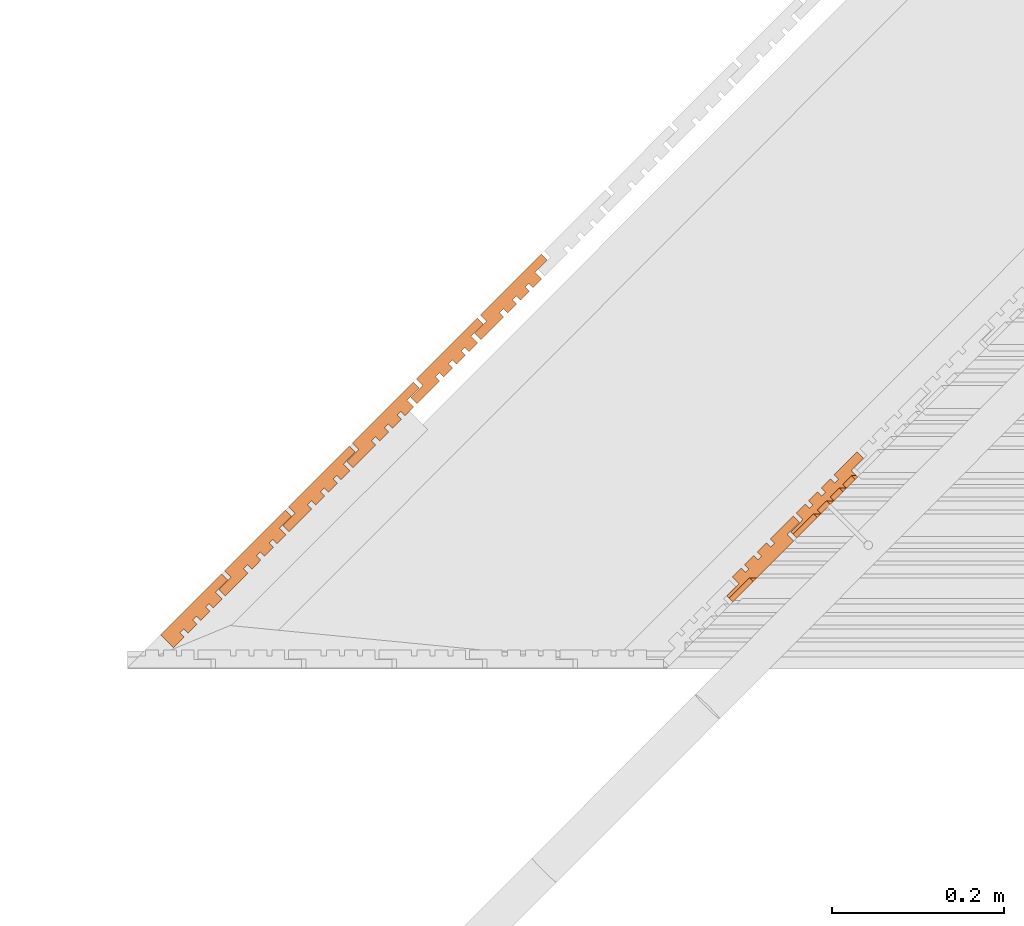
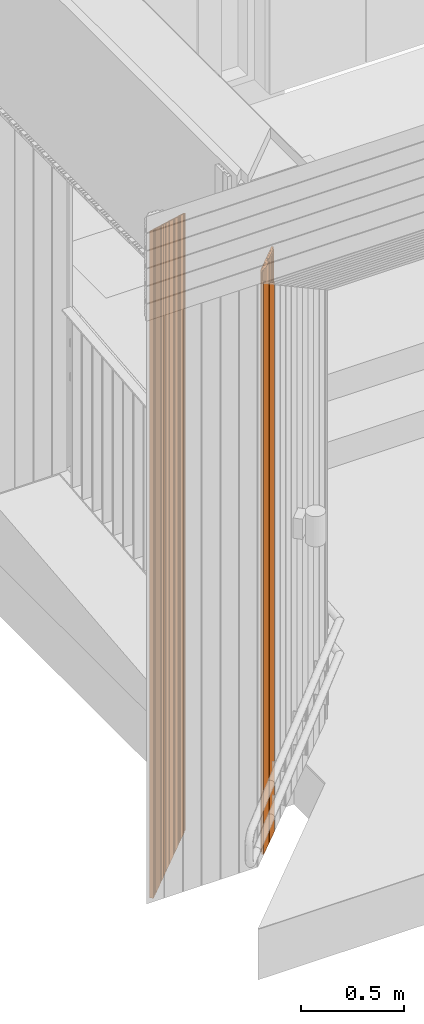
# One storey, part 382 of 418: 8 proxies.
"""IFC2X3 building model written with IfcOpenShell, lengths in millimetres."""

from ifc_helpers import new_model, entity, si_unit, converted_unit, derived_unit, money_unit, direction, frame, origin_with_axes, place, context, subcontext, project, spatial, polyline, outline, extrude, boolean, faceted_brep, material, type_object, element, save


model = new_model("IFC2X3")

# Units and contexts
model_context = context("Model", 3, precision=0.01, world=origin_with_axes(), true_north=direction((0.0, 1.0)))
body_context = subcontext(model_context, "Body", "Model", "MODEL_VIEW")
ifc_project = project(units=[si_unit("LENGTHUNIT", "METRE", prefix="MILLI"), si_unit("AREAUNIT", "SQUARE_METRE"), si_unit("VOLUMEUNIT", "CUBIC_METRE"), converted_unit("PLANEANGLEUNIT", "DEGREE", entity("IfcPlaneAngleMeasure", 0.0174532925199), si_unit("PLANEANGLEUNIT", "RADIAN"), dimensions=[0, 0, 0, 0, 0, 0, 0]), si_unit("SOLIDANGLEUNIT", "STERADIAN"), money_unit("EUR"), converted_unit("TIMEUNIT", "Year", entity("IfcTimeMeasure", 31556926.0), si_unit("TIMEUNIT", "SECOND"), dimensions=[0, 0, 1, 0, 0, 0, 0]), si_unit("MASSUNIT", "GRAM", prefix="KILO"), si_unit("THERMODYNAMICTEMPERATUREUNIT", "DEGREE_CELSIUS"), si_unit("LUMINOUSINTENSITYUNIT", "LUMEN"), si_unit("ENERGYUNIT", "JOULE", prefix="MEGA"), derived_unit("THERMALCONDUCTANCEUNIT", [(si_unit("POWERUNIT", "WATT"), 1), (si_unit("LENGTHUNIT", "METRE"), -1), (si_unit("THERMODYNAMICTEMPERATUREUNIT", "KELVIN"), -1)]), derived_unit("SPECIFICHEATCAPACITYUNIT", [(si_unit("ENERGYUNIT", "JOULE"), 1), (si_unit("MASSUNIT", "GRAM", prefix="KILO"), -1), (si_unit("THERMODYNAMICTEMPERATUREUNIT", "KELVIN"), -1)]), derived_unit("MASSDENSITYUNIT", [(si_unit("MASSUNIT", "GRAM", prefix="KILO"), 1), (si_unit("VOLUMEUNIT", "CUBIC_METRE"), -1)])], contexts=[model_context])

# Site, building, storey
site_placement = place(None, origin_with_axes())
site = spatial("IfcSite", under=ifc_project, at=site_placement, Name="Paldiski mnt 245/1, Tallinn, Harjumaa", CompositionType="COMPLEX")
building_placement = place(site_placement, origin_with_axes())
building = spatial("IfcBuilding", under=site, at=building_placement, Name="RKAS Hoone üldnimetus (kasutust iseloomustav) -> IFC Project Manager -> SOLIBRI", CompositionType="ELEMENT")
storey_placement = place(building_placement, origin_with_axes())
storey = spatial("IfcBuildingStorey", under=building, at=storey_placement, Name="Esimene korrus", CompositionType="ELEMENT", Elevation=0.0)

# Proxies
ifc_material = material(Name="ET-01_Puit - Konstruktsioon")
building_element_proxy_type_1 = type_object("IfcBuildingElementProxyType", Name="ET-01_Puit - Konstruktsioon 4084", PredefinedType="NOTDEFINED")
proxy_1_placement = place(storey_placement, frame((-45239.8345667, -18317.3537205, 4083.99999963), z_axis=(0.0, 0.0, 1.0), x_axis=(1.0, 0.0, 0.0)))
element("IfcBuildingElementProxy", 1, at=proxy_1_placement, inside=storey, type_object=building_element_proxy_type_1, material=ifc_material, Name="Varikatus", context=body_context, shape_type="CSG", body=[
    boolean("DIFFERENCE", extrude(outline(polyline([(0.0, 0.0), (7.42844055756, -7.42079883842), (33.9497391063, 19.1278074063), (28.9974455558, 24.0750082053), (33.4940944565, 28.5762877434), (38.4463881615, 23.6290885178), (49.0045018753, 34.1980741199), (44.0522081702, 39.1452733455), (48.3823797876, 43.4799031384), (53.3346734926, 38.5327039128), (63.8146046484, 49.0234249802), (58.8623110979, 53.9706257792), (62.8488134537, 57.9612321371), (67.8011071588, 53.0140329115), (78.1027224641, 63.3262563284), (70.3205472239, 71.1004278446), (84.455402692, 85.2498392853), (77.3806969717, 92.3172670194), (6.70641506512, 21.5702118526), (14.1348570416, 14.1494112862), (0.0, 0.0)])), frame((0.0, 0.0, -4083.99999963), z_axis=(0.0, 0.0, 1.0), x_axis=(1.0, 0.0, 0.0)), (0.0, 0.0, 1.0), 4083.99999963), faceted_brep([(70.3205472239, 71.1004278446, -424.394256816), (84.455402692, 85.2498392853, -434.564598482), (84.455402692, 85.2498392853, 0.0), (70.3205472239, 71.1004278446, 0.0), (77.3806969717, 92.3172670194, -439.644538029), (78.1027224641, 63.3262563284, -418.806322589), (67.8011071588, 53.0140329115, -411.394082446), (62.8488134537, 57.9612321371, -414.950039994), (58.8623110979, 53.9706257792, -412.081664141), (63.8146046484, 49.0234249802, -408.525705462), (53.3346734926, 38.5327039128, -400.985164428), (48.3823797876, 43.4799031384, -404.541121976), (44.0522081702, 39.1452733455, -401.425468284), (49.0045018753, 34.1980741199, -397.869510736), (38.4463881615, 23.6290885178, -390.272714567), (33.4940944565, 28.5762877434, -393.828672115), (28.9974455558, 24.0750082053, -390.593233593), (33.9497391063, 19.1278074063, -387.037274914), (7.42844055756, -7.42079883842, -367.954615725), (0.0, 0.0, -373.288552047), (14.1348570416, 14.1494112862, -383.458893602), (6.70641506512, 21.5702118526, -388.792831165), (77.3806969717, 92.3172670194, 0.0), (14.1348570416, 14.1494112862, 0.0), (0.0, 0.0, 0.0), (7.42844055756, -7.42079883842, 0.0), (33.9497391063, 19.1278074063, 0.0), (28.9974455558, 24.0750082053, 0.0), (33.4940944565, 28.5762877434, 0.0), (38.4463881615, 23.6290885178, 0.0), (49.0045018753, 34.1980741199, 0.0), (44.0522081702, 39.1452733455, 0.0), (48.3823797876, 43.4799031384, 0.0), (53.3346734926, 38.5327039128, 0.0), (63.8146046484, 49.0234249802, 0.0), (58.8623110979, 53.9706257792, 0.0), (62.8488134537, 57.9612321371, 0.0), (67.8011071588, 53.0140329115, 0.0), (78.1027224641, 63.3262563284, 0.0), (6.70641506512, 21.5702118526, 0.0)], [[[0, 1, 2, 3]], [[4, 1, 0, 5, 6, 7, 8, 9, 10, 11, 12, 13, 14, 15, 16, 17, 18, 19, 20, 21]], [[1, 4, 22, 2]], [[23, 24, 25, 26, 27, 28, 29, 30, 31, 32, 33, 34, 35, 36, 37, 38, 3, 2, 22, 39]], [[5, 0, 3, 38]], [[6, 5, 38, 37]], [[7, 6, 37, 36]], [[8, 7, 36, 35]], [[9, 8, 35, 34]], [[10, 9, 34, 33]], [[11, 10, 33, 32]], [[12, 11, 32, 31]], [[13, 12, 31, 30]], [[14, 13, 30, 29]], [[15, 14, 29, 28]], [[16, 15, 28, 27]], [[17, 16, 27, 26]], [[18, 17, 26, 25]], [[19, 18, 25, 24]], [[20, 19, 24, 23]], [[21, 20, 23, 39]], [[4, 21, 39, 22]]])),
])
proxy_2_placement = place(storey_placement, frame((-45314.0425629, -18391.6381286, 4083.99999963), z_axis=(0.0, 0.0, 1.0), x_axis=(1.0, 0.0, 0.0)))
element("IfcBuildingElementProxy", 2, at=proxy_2_placement, inside=storey, type_object=building_element_proxy_type_1, material=ifc_material, Name="Varikatus", context=body_context, shape_type="CSG", body=[
    boolean("DIFFERENCE", extrude(outline(polyline([(0.0, 0.0), (7.42844055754, -7.42079883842), (33.9497391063, 19.1278074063), (28.9974455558, 24.0750082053), (33.4940944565, 28.5762877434), (38.4463881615, 23.6290885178), (49.0045018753, 34.1980741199), (44.0522081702, 39.1452733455), (48.3823797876, 43.4799031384), (53.3346734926, 38.5327039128), (63.8146046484, 49.0234249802), (58.8623110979, 53.9706257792), (62.8488134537, 57.9612321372), (67.8011071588, 53.0140329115), (78.1027224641, 63.3262563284), (70.3205472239, 71.1004278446), (84.455402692, 85.2498392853), (77.3806969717, 92.3172670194), (6.70641506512, 21.5702118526), (14.1348570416, 14.1494112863), (0.0, 0.0)])), frame((0.0, 0.0, -4083.99999963), z_axis=(0.0, 0.0, 1.0), x_axis=(1.0, 0.0, 0.0)), (0.0, 0.0, 1.0), 4083.99999963), faceted_brep([(70.3205472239, 71.1004278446, -370.999964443), (84.455402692, 85.2498392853, -381.170306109), (84.455402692, 85.2498392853, 0.0), (70.3205472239, 71.1004278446, 0.0), (77.3806969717, 92.3172670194, -386.250245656), (78.1027224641, 63.3262563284, -365.412030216), (67.8011071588, 53.0140329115, -357.999790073), (62.8488134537, 57.9612321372, -361.555747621), (58.8623110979, 53.9706257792, -358.687371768), (63.8146046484, 49.0234249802, -355.131413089), (53.3346734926, 38.5327039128, -347.590872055), (48.3823797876, 43.4799031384, -351.146829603), (44.0522081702, 39.1452733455, -348.031175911), (49.0045018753, 34.1980741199, -344.475218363), (38.4463881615, 23.6290885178, -336.878422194), (33.4940944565, 28.5762877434, -340.434379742), (28.9974455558, 24.0750082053, -337.19894122), (33.9497391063, 19.1278074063, -333.642982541), (7.42844055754, -7.42079883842, -314.560323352), (0.0, 0.0, -319.894259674), (14.1348570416, 14.1494112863, -330.064601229), (6.70641506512, 21.5702118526, -335.398538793), (77.3806969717, 92.3172670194, 0.0), (14.1348570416, 14.1494112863, 0.0), (0.0, 0.0, 0.0), (7.42844055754, -7.42079883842, 0.0), (33.9497391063, 19.1278074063, 0.0), (28.9974455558, 24.0750082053, 0.0), (33.4940944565, 28.5762877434, 0.0), (38.4463881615, 23.6290885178, 0.0), (49.0045018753, 34.1980741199, 0.0), (44.0522081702, 39.1452733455, 0.0), (48.3823797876, 43.4799031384, 0.0), (53.3346734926, 38.5327039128, 0.0), (63.8146046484, 49.0234249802, 0.0), (58.8623110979, 53.9706257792, 0.0), (62.8488134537, 57.9612321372, 0.0), (67.8011071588, 53.0140329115, 0.0), (78.1027224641, 63.3262563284, 0.0), (6.70641506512, 21.5702118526, 0.0)], [[[0, 1, 2, 3]], [[4, 1, 0, 5, 6, 7, 8, 9, 10, 11, 12, 13, 14, 15, 16, 17, 18, 19, 20, 21]], [[1, 4, 22, 2]], [[23, 24, 25, 26, 27, 28, 29, 30, 31, 32, 33, 34, 35, 36, 37, 38, 3, 2, 22, 39]], [[5, 0, 3, 38]], [[6, 5, 38, 37]], [[7, 6, 37, 36]], [[8, 7, 36, 35]], [[9, 8, 35, 34]], [[10, 9, 34, 33]], [[11, 10, 33, 32]], [[12, 11, 32, 31]], [[13, 12, 31, 30]], [[14, 13, 30, 29]], [[15, 14, 29, 28]], [[16, 15, 28, 27]], [[17, 16, 27, 26]], [[18, 17, 26, 25]], [[19, 18, 25, 24]], [[20, 19, 24, 23]], [[21, 20, 23, 39]], [[4, 21, 39, 22]]])),
])
proxy_3_placement = place(storey_placement, frame((-45388.2505591, -18465.9225368, 4083.99999963), z_axis=(0.0, 0.0, 1.0), x_axis=(1.0, 0.0, 0.0)))
element("IfcBuildingElementProxy", 3, at=proxy_3_placement, inside=storey, type_object=building_element_proxy_type_1, material=ifc_material, Name="Varikatus", context=body_context, shape_type="CSG", body=[
    boolean("DIFFERENCE", extrude(outline(polyline([(0.0, 0.0), (7.42844055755, -7.42079883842), (33.9497391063, 19.1278074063), (28.9974455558, 24.0750082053), (33.4940944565, 28.5762877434), (38.4463881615, 23.6290885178), (49.0045018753, 34.1980741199), (44.0522081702, 39.1452733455), (48.3823797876, 43.4799031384), (53.3346734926, 38.5327039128), (63.8146046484, 49.0234249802), (58.8623110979, 53.9706257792), (62.8488134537, 57.9612321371), (67.8011071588, 53.0140329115), (78.1027224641, 63.3262563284), (70.3205472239, 71.1004278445), (84.455402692, 85.2498392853), (77.3806969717, 92.3172670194), (6.70641506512, 21.5702118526), (14.1348570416, 14.1494112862), (0.0, 0.0)])), frame((0.0, 0.0, -4083.99999963), z_axis=(0.0, 0.0, 1.0), x_axis=(1.0, 0.0, 0.0)), (0.0, 0.0, 1.0), 4083.99999963), faceted_brep([(70.3205472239, 71.1004278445, -317.60567207), (84.455402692, 85.2498392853, -327.776013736), (84.455402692, 85.2498392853, 0.0), (70.3205472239, 71.1004278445, 0.0), (77.3806969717, 92.3172670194, -332.855953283), (78.1027224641, 63.3262563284, -312.017737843), (67.8011071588, 53.0140329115, -304.6054977), (62.8488134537, 57.9612321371, -308.161455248), (58.8623110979, 53.9706257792, -305.293079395), (63.8146046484, 49.0234249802, -301.737120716), (53.3346734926, 38.5327039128, -294.196579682), (48.3823797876, 43.4799031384, -297.75253723), (44.0522081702, 39.1452733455, -294.636883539), (49.0045018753, 34.1980741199, -291.080925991), (38.4463881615, 23.6290885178, -283.484129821), (33.4940944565, 28.5762877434, -287.040087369), (28.9974455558, 24.0750082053, -283.804648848), (33.9497391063, 19.1278074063, -280.248690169), (7.42844055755, -7.42079883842, -261.166030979), (0.0, 0.0, -266.499967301), (14.1348570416, 14.1494112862, -276.670308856), (6.70641506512, 21.5702118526, -282.00424642), (77.3806969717, 92.3172670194, 0.0), (14.1348570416, 14.1494112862, 0.0), (0.0, 0.0, 0.0), (7.42844055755, -7.42079883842, 0.0), (33.9497391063, 19.1278074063, 0.0), (28.9974455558, 24.0750082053, 0.0), (33.4940944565, 28.5762877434, 0.0), (38.4463881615, 23.6290885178, 0.0), (49.0045018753, 34.1980741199, 0.0), (44.0522081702, 39.1452733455, 0.0), (48.3823797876, 43.4799031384, 0.0), (53.3346734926, 38.5327039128, 0.0), (63.8146046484, 49.0234249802, 0.0), (58.8623110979, 53.9706257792, 0.0), (62.8488134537, 57.9612321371, 0.0), (67.8011071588, 53.0140329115, 0.0), (78.1027224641, 63.3262563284, 0.0), (6.70641506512, 21.5702118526, 0.0)], [[[0, 1, 2, 3]], [[4, 1, 0, 5, 6, 7, 8, 9, 10, 11, 12, 13, 14, 15, 16, 17, 18, 19, 20, 21]], [[1, 4, 22, 2]], [[23, 24, 25, 26, 27, 28, 29, 30, 31, 32, 33, 34, 35, 36, 37, 38, 3, 2, 22, 39]], [[5, 0, 3, 38]], [[6, 5, 38, 37]], [[7, 6, 37, 36]], [[8, 7, 36, 35]], [[9, 8, 35, 34]], [[10, 9, 34, 33]], [[11, 10, 33, 32]], [[12, 11, 32, 31]], [[13, 12, 31, 30]], [[14, 13, 30, 29]], [[15, 14, 29, 28]], [[16, 15, 28, 27]], [[17, 16, 27, 26]], [[18, 17, 26, 25]], [[19, 18, 25, 24]], [[20, 19, 24, 23]], [[21, 20, 23, 39]], [[4, 21, 39, 22]]])),
])
proxy_4_placement = place(storey_placement, frame((-45462.4585554, -18540.2069449, 4083.99999963), z_axis=(0.0, 0.0, 1.0), x_axis=(1.0, 0.0, 0.0)))
element("IfcBuildingElementProxy", 4, at=proxy_4_placement, inside=storey, type_object=building_element_proxy_type_1, material=ifc_material, Name="Varikatus", context=body_context, shape_type="CSG", body=[
    boolean("DIFFERENCE", extrude(outline(polyline([(0.0, 0.0), (7.42844055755, -7.42079883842), (33.9497391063, 19.1278074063), (28.9974455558, 24.0750082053), (33.4940944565, 28.5762877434), (38.4463881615, 23.6290885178), (49.0045018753, 34.1980741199), (44.0522081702, 39.1452733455), (48.3823797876, 43.4799031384), (53.3346734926, 38.5327039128), (63.8146046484, 49.0234249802), (58.8623110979, 53.9706257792), (62.8488134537, 57.9612321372), (67.8011071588, 53.0140329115), (78.1027224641, 63.3262563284), (70.3205472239, 71.1004278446), (84.455402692, 85.2498392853), (77.3806969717, 92.3172670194), (6.70641506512, 21.5702118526), (14.1348570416, 14.1494112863), (0.0, 0.0)])), frame((0.0, 0.0, -4083.99999963), z_axis=(0.0, 0.0, 1.0), x_axis=(1.0, 0.0, 0.0)), (0.0, 0.0, 1.0), 4083.99999963), faceted_brep([(70.3205472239, 71.1004278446, -264.211379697), (84.455402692, 85.2498392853, -274.381721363), (84.455402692, 85.2498392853, 0.0), (70.3205472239, 71.1004278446, 0.0), (77.3806969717, 92.3172670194, -279.46166091), (78.1027224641, 63.3262563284, -258.62344547), (67.8011071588, 53.0140329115, -251.211205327), (62.8488134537, 57.9612321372, -254.767162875), (58.8623110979, 53.9706257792, -251.898787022), (63.8146046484, 49.0234249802, -248.342828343), (53.3346734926, 38.5327039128, -240.802287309), (48.3823797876, 43.4799031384, -244.358244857), (44.0522081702, 39.1452733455, -241.242591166), (49.0045018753, 34.1980741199, -237.686633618), (38.4463881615, 23.6290885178, -230.089837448), (33.4940944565, 28.5762877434, -233.645794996), (28.9974455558, 24.0750082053, -230.410356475), (33.9497391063, 19.1278074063, -226.854397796), (7.42844055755, -7.42079883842, -207.771738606), (0.0, 0.0, -213.105674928), (14.1348570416, 14.1494112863, -223.276016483), (6.70641506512, 21.5702118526, -228.609954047), (77.3806969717, 92.3172670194, 0.0), (14.1348570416, 14.1494112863, 0.0), (0.0, 0.0, 0.0), (7.42844055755, -7.42079883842, 0.0), (33.9497391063, 19.1278074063, 0.0), (28.9974455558, 24.0750082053, 0.0), (33.4940944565, 28.5762877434, 0.0), (38.4463881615, 23.6290885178, 0.0), (49.0045018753, 34.1980741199, 0.0), (44.0522081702, 39.1452733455, 0.0), (48.3823797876, 43.4799031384, 0.0), (53.3346734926, 38.5327039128, 0.0), (63.8146046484, 49.0234249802, 0.0), (58.8623110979, 53.9706257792, 0.0), (62.8488134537, 57.9612321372, 0.0), (67.8011071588, 53.0140329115, 0.0), (78.1027224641, 63.3262563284, 0.0), (6.70641506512, 21.5702118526, 0.0)], [[[0, 1, 2, 3]], [[4, 1, 0, 5, 6, 7, 8, 9, 10, 11, 12, 13, 14, 15, 16, 17, 18, 19, 20, 21]], [[1, 4, 22, 2]], [[23, 24, 25, 26, 27, 28, 29, 30, 31, 32, 33, 34, 35, 36, 37, 38, 3, 2, 22, 39]], [[5, 0, 3, 38]], [[6, 5, 38, 37]], [[7, 6, 37, 36]], [[8, 7, 36, 35]], [[9, 8, 35, 34]], [[10, 9, 34, 33]], [[11, 10, 33, 32]], [[12, 11, 32, 31]], [[13, 12, 31, 30]], [[14, 13, 30, 29]], [[15, 14, 29, 28]], [[16, 15, 28, 27]], [[17, 16, 27, 26]], [[18, 17, 26, 25]], [[19, 18, 25, 24]], [[20, 19, 24, 23]], [[21, 20, 23, 39]], [[4, 21, 39, 22]]])),
])
proxy_5_placement = place(storey_placement, frame((-45536.6665516, -18614.4913531, 4083.99999963), z_axis=(0.0, 0.0, 1.0), x_axis=(1.0, 0.0, 0.0)))
element("IfcBuildingElementProxy", 5, at=proxy_5_placement, inside=storey, type_object=building_element_proxy_type_1, material=ifc_material, Name="Varikatus", context=body_context, shape_type="CSG", body=[
    boolean("DIFFERENCE", extrude(outline(polyline([(0.0, 0.0), (7.42844055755, -7.42079883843), (33.9497391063, 19.1278074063), (28.9974455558, 24.0750082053), (33.4940944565, 28.5762877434), (38.4463881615, 23.6290885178), (49.0045018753, 34.1980741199), (44.0522081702, 39.1452733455), (48.3823797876, 43.4799031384), (53.3346734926, 38.5327039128), (63.8146046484, 49.0234249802), (58.8623110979, 53.9706257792), (62.8488134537, 57.9612321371), (67.8011071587, 53.0140329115), (78.1027224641, 63.3262563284), (70.3205472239, 71.1004278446), (84.455402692, 85.2498392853), (77.3806969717, 92.3172670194), (6.70641506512, 21.5702118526), (14.1348570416, 14.1494112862), (0.0, 0.0)])), frame((0.0, 0.0, -4083.99999963), z_axis=(0.0, 0.0, 1.0), x_axis=(1.0, 0.0, 0.0)), (0.0, 0.0, 1.0), 4083.99999963), faceted_brep([(70.3205472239, 71.1004278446, -210.817087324), (84.455402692, 85.2498392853, -220.98742899), (84.455402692, 85.2498392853, 0.0), (70.3205472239, 71.1004278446, 0.0), (77.3806969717, 92.3172670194, -226.067368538), (78.1027224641, 63.3262563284, -205.229153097), (67.8011071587, 53.0140329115, -197.816912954), (62.8488134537, 57.9612321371, -201.372870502), (58.8623110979, 53.9706257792, -198.504494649), (63.8146046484, 49.0234249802, -194.94853597), (53.3346734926, 38.5327039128, -187.407994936), (48.3823797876, 43.4799031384, -190.963952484), (44.0522081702, 39.1452733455, -187.848298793), (49.0045018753, 34.1980741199, -184.292341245), (38.4463881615, 23.6290885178, -176.695545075), (33.4940944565, 28.5762877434, -180.251502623), (28.9974455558, 24.0750082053, -177.016064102), (33.9497391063, 19.1278074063, -173.460105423), (7.42844055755, -7.42079883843, -154.377446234), (0.0, 0.0, -159.711382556), (14.1348570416, 14.1494112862, -169.88172411), (6.70641506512, 21.5702118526, -175.215661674), (77.3806969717, 92.3172670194, 0.0), (14.1348570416, 14.1494112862, 0.0), (0.0, 0.0, 0.0), (7.42844055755, -7.42079883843, 0.0), (33.9497391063, 19.1278074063, 0.0), (28.9974455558, 24.0750082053, 0.0), (33.4940944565, 28.5762877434, 0.0), (38.4463881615, 23.6290885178, 0.0), (49.0045018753, 34.1980741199, 0.0), (44.0522081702, 39.1452733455, 0.0), (48.3823797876, 43.4799031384, 0.0), (53.3346734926, 38.5327039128, 0.0), (63.8146046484, 49.0234249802, 0.0), (58.8623110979, 53.9706257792, 0.0), (62.8488134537, 57.9612321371, 0.0), (67.8011071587, 53.0140329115, 0.0), (78.1027224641, 63.3262563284, 0.0), (6.70641506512, 21.5702118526, 0.0)], [[[0, 1, 2, 3]], [[4, 1, 0, 5, 6, 7, 8, 9, 10, 11, 12, 13, 14, 15, 16, 17, 18, 19, 20, 21]], [[1, 4, 22, 2]], [[23, 24, 25, 26, 27, 28, 29, 30, 31, 32, 33, 34, 35, 36, 37, 38, 3, 2, 22, 39]], [[5, 0, 3, 38]], [[6, 5, 38, 37]], [[7, 6, 37, 36]], [[8, 7, 36, 35]], [[9, 8, 35, 34]], [[10, 9, 34, 33]], [[11, 10, 33, 32]], [[12, 11, 32, 31]], [[13, 12, 31, 30]], [[14, 13, 30, 29]], [[15, 14, 29, 28]], [[16, 15, 28, 27]], [[17, 16, 27, 26]], [[18, 17, 26, 25]], [[19, 18, 25, 24]], [[20, 19, 24, 23]], [[21, 20, 23, 39]], [[4, 21, 39, 22]]])),
])
proxy_6_placement = place(storey_placement, frame((-45596.7396908, -18674.6263509, 4083.99999963), z_axis=(0.0, 0.0, 1.0), x_axis=(1.0, 0.0, 0.0)))
element("IfcBuildingElementProxy", 6, at=proxy_6_placement, inside=storey, type_object=building_element_proxy_type_1, material=ifc_material, Name="Varikatus", context=body_context, shape_type="CSG", body=[
    boolean("DIFFERENCE", extrude(outline(polyline([(7.4284407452, -7.42079760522), (19.8148825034, 4.97839686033), (14.8625882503, 9.92559814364), (19.3592371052, 14.4268774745), (24.311531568, 9.47967829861), (34.8696449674, 20.0486636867), (29.9173505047, 24.9958628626), (34.2475228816, 29.3304928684), (39.1998161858, 24.3832927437), (49.6797474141, 34.874014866), (44.7274541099, 39.8212149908), (48.7139566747, 43.8118218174), (53.6662499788, 38.8646216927), (63.9678661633, 49.1768460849), (56.1856899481, 56.9510165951), (70.3205458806, 71.1004286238), (63.2458398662, 78.1678565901), (-7.42844243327, 7.42080202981), (7.4284407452, -7.42079760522)])), frame((0.0, 0.0, -4083.99999963), z_axis=(0.0, 0.0, 1.0), x_axis=(1.0, 0.0, 0.0)), (0.0, 0.0, 1.0), 4083.99999963), faceted_brep([(56.1856899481, 56.9510165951, -157.422794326), (70.3205458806, 71.1004286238, -167.593136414), (70.3205458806, 71.1004286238, 0.0), (56.1856899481, 56.9510165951, 0.0), (63.2458398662, 78.1678565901, -172.673076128), (63.9678661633, 49.1768460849, -151.834860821), (53.6662499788, 38.8646216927, -144.422619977), (48.7139566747, 43.8118218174, -147.978578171), (44.7274541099, 39.8212149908, -145.110201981), (49.6797474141, 34.874014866, -141.554243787), (39.1998161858, 24.3832927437, -134.013701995), (34.2475228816, 29.3304928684, -137.569660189), (29.9173505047, 24.9958628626, -134.454006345), (34.8696449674, 20.0486636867, -130.898048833), (24.311531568, 9.47967829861, -123.301252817), (19.3592371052, 14.4268774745, -126.857210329), (14.8625882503, 9.92559814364, -123.621771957), (19.8148825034, 4.97839686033, -120.06581293), (7.4284407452, -7.42079760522, -111.153495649), (6.84565293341e-07, 6.85268730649e-07, -116.487431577), (-7.42844243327, 7.42080202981, -121.8213697), (63.2458398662, 78.1678565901, 0.0), (-7.42844243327, 7.42080202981, 0.0), (0.0, 0.0, 0.0), (7.4284407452, -7.42079760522, 0.0), (19.8148825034, 4.97839686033, 0.0), (14.8625882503, 9.92559814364, 0.0), (19.3592371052, 14.4268774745, 0.0), (24.311531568, 9.47967829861, 0.0), (34.8696449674, 20.0486636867, 0.0), (29.9173505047, 24.9958628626, 0.0), (34.2475228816, 29.3304928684, 0.0), (39.1998161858, 24.3832927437, 0.0), (49.6797474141, 34.874014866, 0.0), (44.7274541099, 39.8212149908, 0.0), (48.7139566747, 43.8118218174, 0.0), (53.6662499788, 38.8646216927, 0.0), (63.9678661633, 49.1768460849, 0.0)], [[[0, 1, 2, 3]], [[4, 1, 0, 5, 6, 7, 8, 9, 10, 11, 12, 13, 14, 15, 16, 17, 18, 19, 20]], [[1, 4, 21, 2]], [[22, 23, 24, 25, 26, 27, 28, 29, 30, 31, 32, 33, 34, 35, 36, 37, 3, 2, 21]], [[5, 0, 3, 37]], [[6, 5, 37, 36]], [[7, 6, 36, 35]], [[8, 7, 35, 34]], [[9, 8, 34, 33]], [[10, 9, 33, 32]], [[11, 10, 32, 31]], [[12, 11, 31, 30]], [[13, 12, 30, 29]], [[14, 13, 29, 28]], [[15, 14, 28, 27]], [[16, 15, 27, 26]], [[17, 16, 26, 25]], [[18, 17, 25, 24]], [[19, 18, 24, 23]], [[20, 19, 23, 22]], [[4, 20, 22, 21]]])),
])
building_element_proxy_type_2 = type_object("IfcBuildingElementProxyType", Name="ET-01_Puit - Konstruktsioon 3460", PredefinedType="NOTDEFINED")
proxy_7_placement = place(storey_placement, frame((-44862.6061355, -18536.5608835, 3459.91760543), z_axis=(0.0, 0.0, 1.0), x_axis=(1.0, 0.0, 0.0)))
element("IfcBuildingElementProxy", 7, at=proxy_7_placement, inside=storey, type_object=building_element_proxy_type_2, material=ifc_material, Name="Varikatus", context=body_context, shape_type="CSG", body=[
    boolean("DIFFERENCE", boolean("DIFFERENCE", extrude(outline(polyline([(0.0, 0.0), (-7.43421773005, 7.41501121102), (-33.9348317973, -19.1542421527), (-28.9786867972, -24.0975845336), (-33.4718286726, -28.6023647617), (-38.427973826, -23.6590239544), (-48.977853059, -34.2362291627), (-44.0217079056, -39.17956997), (-48.3485023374, -43.5175708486), (-53.3046474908, -38.5742300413), (-63.7764051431, -49.0731098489), (-58.820260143, -54.0164522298), (-62.8036533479, -58.0101621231), (-67.7597985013, -53.0668213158), (-78.0533793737, -63.3870646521), (-70.2651518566, -71.15517294), (-84.3889832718, -85.3155885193), (-77.3087754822, -92.3775042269), (-6.68961383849, -21.5754283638), (-14.1238329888, -14.160415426), (0.0, 0.0)])), frame((0.0, 0.0, -3459.91760543), z_axis=(0.0, 0.0, 1.0), x_axis=(1.0, 0.0, 0.0)), (0.0, 0.0, 1.0), 3459.91760543), faceted_brep([(-53.746979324, -68.7546806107, -79.1952521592), (-49.3759618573, -64.3723417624, -74.8129120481), (-49.3759631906, -64.3723417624, 0.0), (-77.3087754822, -92.3775042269, 0.0), (-77.3087754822, -92.3775042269, -55.6334560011), (-58.129320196, -64.3723417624, -74.8129120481), (-58.129320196, -64.3723417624, 0.0), (-81.7273341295, -87.9703611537, 0.0), (-81.7273341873, -87.9703612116, -51.2148973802)], [[[0, 1, 2, 3, 4]], [[1, 0, 5]], [[6, 2, 1, 5]], [[6, 7, 3, 2]], [[8, 4, 3, 7]], [[0, 4, 8, 5]], [[7, 6, 5, 8]]])), faceted_brep([(-19.9219839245, -34.8420750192, -113.020247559), (-9.6283934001, -24.5218230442, -123.313838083), (-6.68961383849, -21.5754283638, -120.36744208), (-6.68961383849, -21.5754283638, 0.0), (-49.2538339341, -64.2498961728, 0.0), (-49.2538332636, -64.2498968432, -83.6883982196), (-38.703944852, -53.6726831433, -94.2382866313), (-34.3771469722, -49.3346784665, -89.9002813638), (-34.3771469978, -49.3346784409, -98.5650844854), (-23.9053802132, -38.835788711, -109.03685127), (-19.9219841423, -34.8420748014, -105.043136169), (-24.2605216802, -30.5035377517, -108.681709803), (-13.9536016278, -20.1966163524, -118.988630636), (-8.07199727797, -20.1966163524, -118.988630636), (-8.07199722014, -20.1966163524, 0.0), (-53.6303539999, -59.8733765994, 0.0), (-13.9536016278, -20.1966163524, 0.0), (-24.2605216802, -30.5035377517, 0.0), (-20.2719653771, -34.4920936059, 0.0), (-28.2490773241, -34.4920936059, 0.0), (-38.7344032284, -44.9774227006, 0.0), (-34.4020007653, -49.3098246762, 0.0), (-43.06680381, -49.3098246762, 0.0), (-53.6303539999, -59.8733765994, -79.3118774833), (-43.06680381, -49.3098246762, -89.8754276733), (-34.4020007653, -49.3098246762, -89.8754275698), (-34.4020007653, -49.3098246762, -98.540230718), (-38.7344032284, -44.9774227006, -94.2078282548), (-28.2490773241, -34.4920936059, -104.69315492), (-20.2719653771, -34.4920936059, -104.69315492)], [[[0, 1, 2, 3, 4, 5, 6, 7, 8, 9, 10]], [[1, 0, 11, 12]], [[13, 2, 1, 12]], [[13, 14, 3, 2]], [[15, 4, 3, 14, 16, 17, 18, 19, 20, 21, 22]], [[5, 4, 15, 23]], [[6, 5, 23, 24]], [[7, 6, 24, 25]], [[8, 7, 25, 26]], [[9, 8, 26, 27, 28]], [[10, 9, 28, 29]], [[0, 10, 29, 18, 17, 11]], [[17, 16, 12, 11]], [[16, 14, 13, 12]], [[19, 18, 29, 28]], [[20, 19, 28, 27]], [[21, 20, 27, 26, 25]], [[22, 21, 25, 24]], [[15, 22, 24, 23]]])),
])
proxy_8_placement = place(storey_placement, frame((-44788.4560161, -18462.218703, 3459.91760543), z_axis=(0.0, 0.0, 1.0), x_axis=(1.0, 0.0, 0.0)))
element("IfcBuildingElementProxy", 8, at=proxy_8_placement, inside=storey, type_object=building_element_proxy_type_2, material=ifc_material, Name="Varikatus", context=body_context, shape_type="CSG", body=[
    boolean("DIFFERENCE", boolean("DIFFERENCE", boolean("DIFFERENCE", extrude(outline(polyline([(0.0, 0.0), (-7.43421773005, 7.41501121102), (-33.9348317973, -19.1542421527), (-28.9786867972, -24.0975845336), (-33.4718286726, -28.6023647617), (-38.427973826, -23.6590239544), (-48.977853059, -34.2362291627), (-44.0217079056, -39.1795699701), (-48.3485023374, -43.5175708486), (-53.3046474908, -38.5742300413), (-63.7764051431, -49.073109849), (-58.820260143, -54.0164522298), (-62.8036533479, -58.0101621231), (-67.7597985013, -53.0668213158), (-78.0533793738, -63.3870646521), (-70.2651518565, -71.15517294), (-84.3889832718, -85.3155885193), (-77.3087754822, -92.3775042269), (-6.6896138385, -21.5754283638), (-14.1238329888, -14.160415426), (0.0, 0.0)])), frame((0.0, 0.0, -3459.91760543), z_axis=(0.0, 0.0, 1.0), x_axis=(1.0, 0.0, 0.0)), (0.0, 0.0, 1.0), 3459.91760543), faceted_brep([(-53.6510672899, -68.6585201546, -153.441283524), (-49.3759495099, -64.372329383, -149.155091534), (-49.3759508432, -64.372329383, 0.0), (-77.3087754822, -92.3775042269, 0.0), (-77.3087754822, -92.3775042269, -129.783575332), (-57.9372600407, -64.372329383, -149.155091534), (-57.9372600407, -64.372329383, 0.0), (-81.6311860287, -88.066260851, 0.0), (-81.6311860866, -88.066260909, -125.461164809)], [[[0, 1, 2, 3, 4]], [[1, 0, 5]], [[6, 2, 1, 5]], [[6, 7, 3, 2]], [[8, 4, 3, 7]], [[0, 4, 8, 5]], [[7, 6, 5, 8]]])), faceted_brep([(-38.6080328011, -53.5765226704, -168.484318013), (-34.3523450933, -49.3098122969, -164.217607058), (-34.3523471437, -49.3098122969, 0.0), (-49.1579218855, -64.1537356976, 0.0), (-49.1579212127, -64.1537363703, -157.934429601), (-42.8747436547, -49.3098122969, -164.217607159), (-42.8747436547, -49.3098122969, 0.0), (-53.4382938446, -59.8733642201, 0.0), (-53.4382938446, -59.8733642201, -153.654056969)], [[[0, 1, 2, 3, 4]], [[1, 0, 5]], [[6, 2, 1, 5]], [[7, 3, 2, 6]], [[4, 3, 7, 8]], [[0, 4, 8, 5]], [[7, 6, 5, 8]]])), faceted_brep([(-19.8260718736, -34.7459145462, -187.26627894), (-9.53248136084, -24.4256625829, -197.559869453), (-6.6896138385, -21.5754283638, -194.709633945), (-6.6896138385, -21.5754283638, 0.0), (-34.2812359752, -49.2385169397, 0.0), (-34.2812349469, -49.238517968, -172.811115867), (-23.8094681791, -38.7396282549, -183.282882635), (-19.8260721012, -34.7459143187, -179.289167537), (-20.0799052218, -34.4920812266, -187.012445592), (-24.0684615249, -30.5035253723, -183.023889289), (-13.7615414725, -20.196603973, -193.330810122), (-8.07200968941, -20.196603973, -193.330810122), (-8.07200963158, -20.196603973, 0.0), (-38.5423430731, -44.9774103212, 0.0), (-13.7615414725, -20.196603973, 0.0), (-24.0684615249, -30.5035253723, 0.0), (-20.0799052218, -34.4920812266, 0.0), (-28.0570171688, -34.4920812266, 0.0), (-38.5423430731, -44.9774103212, -168.550007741), (-28.0570171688, -34.4920812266, -179.035334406), (-20.0799052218, -34.4920812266, -179.035334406)], [[[0, 1, 2, 3, 4, 5, 6, 7]], [[1, 0, 8, 9, 10]], [[11, 2, 1, 10]], [[11, 12, 3, 2]], [[13, 4, 3, 12, 14, 15, 16, 17]], [[5, 4, 13, 18]], [[6, 5, 18, 19]], [[7, 6, 19, 20]], [[0, 7, 20, 8]], [[16, 15, 9, 8, 20]], [[15, 14, 10, 9]], [[14, 12, 11, 10]], [[17, 16, 20, 19]], [[13, 17, 19, 18]]])),
])

save(model, "model.ifc")
